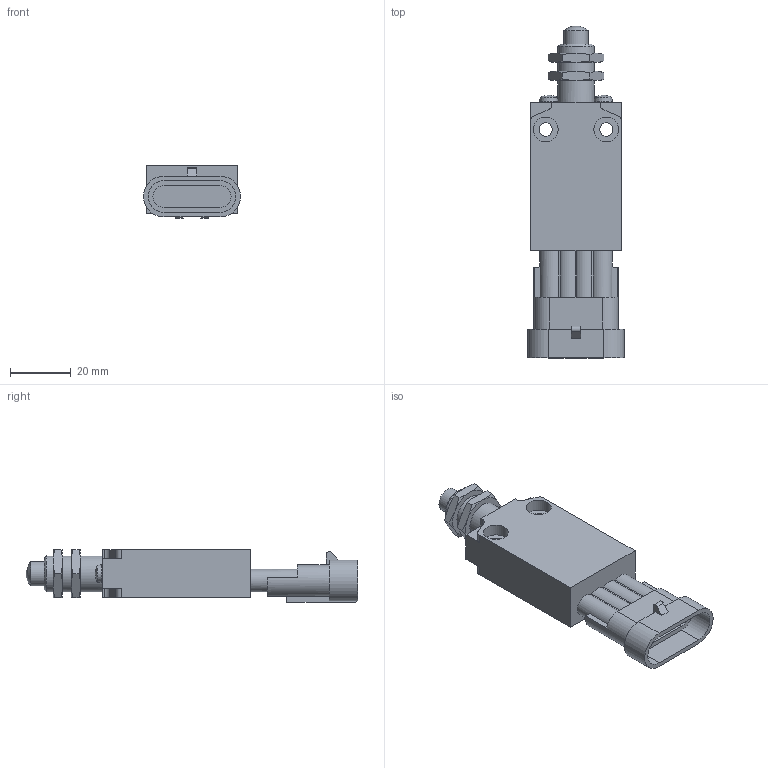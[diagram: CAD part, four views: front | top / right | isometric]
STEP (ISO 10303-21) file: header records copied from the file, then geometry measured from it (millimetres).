
FILE_DESCRIPTION(/* description */ (''),/* implementation_level */ '2;1');
FILE_NAME(/* name */ 'C:\Users\servizio.tecnico\Desktop\CADENAS\3D\EP1_STP\STP_EP1_G21A.stp',/* time_stamp */ '2017-09-04T09:42:32+02:00',/* author */ ('servizio.tecnico'),/* organization */ (''),/* preprocessor_version */ 'ST-DEVELOPER v16.1',/* originating_system */ 'Autodesk Inventor 2016',/* authorisation */ '');
FILE_SCHEMA (('AUTOMOTIVE_DESIGN { 1 0 10303 214 3 1 1 }'));
Length unit declared in the file: millimetre
Products named in the file (3): Product; EP1G21-A; BASE ASSI 
Assembly tree (2 placements, depth 3):
  BASE ASSI 
    EP1G21-A
      Product
Bounding box: 32 x 109.7 x 17.5 mm (x, y, z)
Volume: 31208.9 mm3; surface area: 13938.9 mm2
Topology: 5 solids, 5 shells, 185 faces, 466 edges, 297 vertices
Faces by surface type: plane 101, cylinder 48, cone 31, sphere 3, torus 2
Full cylindrical faces by diameter (mm): 4.4 x2, 7.95 x1, 8.05 x1, 8.2 x4, 12 x3
Entity records: 5477 total; most frequent: CARTESIAN_POINT 1028, DIRECTION 906, ORIENTED_EDGE 876, EDGE_CURVE 438, AXIS2_PLACEMENT_3D 334, VERTEX_POINT 288, LINE 238, VECTOR 238
